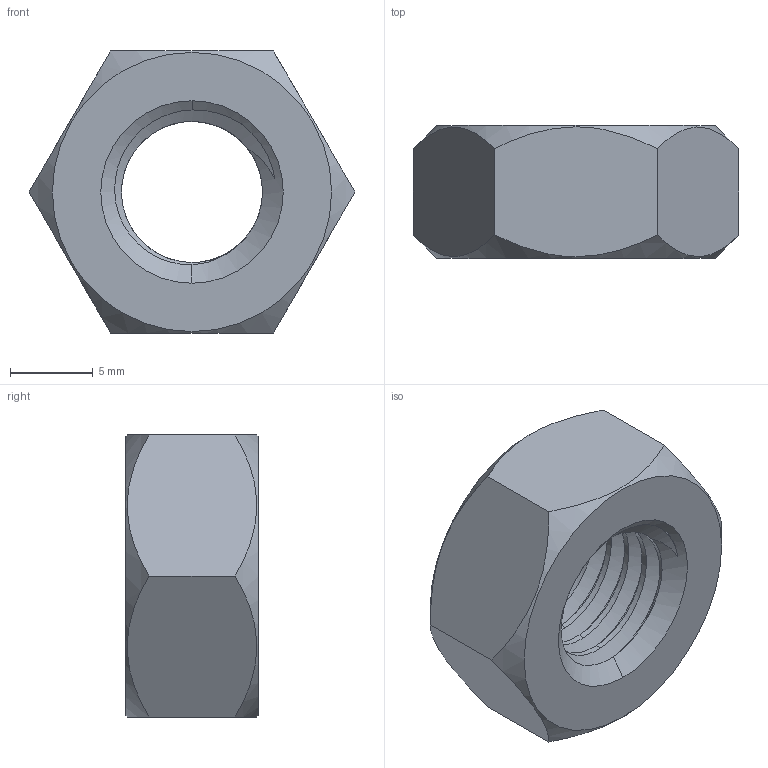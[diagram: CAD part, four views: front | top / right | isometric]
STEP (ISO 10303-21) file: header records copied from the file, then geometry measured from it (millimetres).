
FILE_DESCRIPTION (( 'STEP AP203' ), '1' );
FILE_NAME ('TAN-304RN-M10.STEP', '2026-08-20T13:30:28', ( '' ), ( '' ), 'SwSTEP 2.0', 'SolidWorks 2020', '' );
FILE_SCHEMA (( 'CONFIG_CONTROL_DESIGN' ));
Length unit declared in the file: millimetre
Products named in the file (1): TAN-304RN-M10
Bounding box: 19.63 x 8 x 17 mm (x, y, z)
Volume: 1424.5 mm3; surface area: 1130 mm2
Topology: 1 solids, 1 shells, 28 faces, 78 edges, 52 vertices
Faces by surface type: cylinder 9, cone 8, plane 8, bspline 3
Entity records: 3929 total; most frequent: CARTESIAN_POINT 3230, ORIENTED_EDGE 156, DIRECTION 94, EDGE_CURVE 78, VERTEX_POINT 52, AXIS2_PLACEMENT_3D 36, B_SPLINE_CURVE_WITH_KNOTS 35, EDGE_LOOP 30
